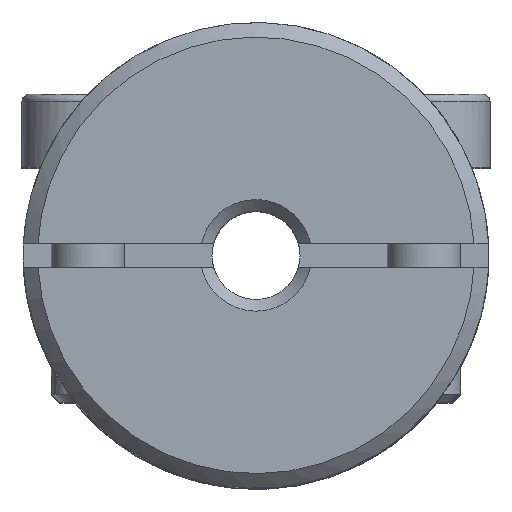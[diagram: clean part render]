
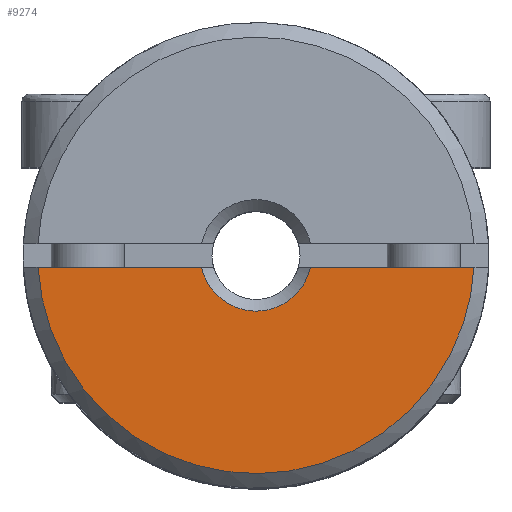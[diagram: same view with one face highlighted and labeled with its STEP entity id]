
A CAD part, top view. The second image highlights one B-rep face of the part: STEP entity #9274.
In plain terms, the highlighted free-form (B-spline) face has degree [3, 3] with [4, 4] control points.
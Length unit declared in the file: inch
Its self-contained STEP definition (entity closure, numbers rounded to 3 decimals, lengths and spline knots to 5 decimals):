
#1452=CARTESIAN_POINT('',(-0.07313,-0.01575,0.5));
#1656=CARTESIAN_POINT('',(-0.29239,-0.01575,0.5));
#1663=CARTESIAN_POINT('',(0.07313,-0.01575,0.5));
#1664=CARTESIAN_POINT('',(0.07148,-0.02341,0.5));
#1665=CARTESIAN_POINT('',(0.067,-0.03517,0.5));
#1666=CARTESIAN_POINT('',(0.05679,-0.04928,0.5));
#1667=CARTESIAN_POINT('',(0.04724,-0.0585,0.5));
#1668=CARTESIAN_POINT('',(0.03622,-0.06589,0.5));
#1669=CARTESIAN_POINT('',(0.02427,-0.07115,0.5));
#1670=CARTESIAN_POINT('',(0.01402,-0.07368,0.5));
#1671=CARTESIAN_POINT('',(0.00592,-0.07465,0.5));
#1672=CARTESIAN_POINT('',(0.,-0.07488,0.5));
#1673=CARTESIAN_POINT('',(-0.00592,-0.07465,0.5));
#1674=CARTESIAN_POINT('',(-0.01402,-0.07368,0.5));
#1675=CARTESIAN_POINT('',(-0.02427,-0.07115,0.5));
#1676=CARTESIAN_POINT('',(-0.03622,-0.06589,0.5));
#1677=CARTESIAN_POINT('',(-0.04724,-0.0585,0.5));
#1678=CARTESIAN_POINT('',(-0.05679,-0.04928,0.5));
#1679=CARTESIAN_POINT('',(-0.067,-0.03517,0.5));
#1680=CARTESIAN_POINT('',(-0.07148,-0.02341,0.5));
#1681=CARTESIAN_POINT('',(-0.07313,-0.01575,0.5));
#1683=DIRECTION('',(-1.,0.,0.));
#1684=VECTOR('',#1683,0.21926);
#1685=CARTESIAN_POINT('',(0.29239,-0.01575,0.5));
#1686=LINE('',#1685,#1684);
#1687=CARTESIAN_POINT('',(-0.29239,-0.01575,0.5));
#1688=CARTESIAN_POINT('',(-0.29149,-0.03252,0.5));
#1689=CARTESIAN_POINT('',(-0.28672,-0.06708,0.5));
#1690=CARTESIAN_POINT('',(-0.26927,-0.11956,0.5));
#1691=CARTESIAN_POINT('',(-0.24102,-0.16964,0.5));
#1692=CARTESIAN_POINT('',(-0.20269,-0.21402,0.5));
#1693=CARTESIAN_POINT('',(-0.1563,-0.24988,0.5));
#1694=CARTESIAN_POINT('',(-0.11338,-0.2711,0.5));
#1695=CARTESIAN_POINT('',(-0.07814,-0.28264,0.5));
#1696=CARTESIAN_POINT('',(-0.05165,-0.28864,0.5));
#1697=CARTESIAN_POINT('',(-0.02982,-0.29152,0.5));
#1698=CARTESIAN_POINT('',(-0.01264,-0.29263,0.5));
#1699=CARTESIAN_POINT('',(0.,-0.29291,0.5));
#1700=CARTESIAN_POINT('',(0.01264,-0.29263,0.5));
#1701=CARTESIAN_POINT('',(0.02982,-0.29152,0.5));
#1702=CARTESIAN_POINT('',(0.05165,-0.28864,0.5));
#1703=CARTESIAN_POINT('',(0.07814,-0.28264,0.5));
#1704=CARTESIAN_POINT('',(0.11338,-0.2711,0.5));
#1705=CARTESIAN_POINT('',(0.1563,-0.24988,0.5));
#1706=CARTESIAN_POINT('',(0.20269,-0.21402,0.5));
#1707=CARTESIAN_POINT('',(0.24102,-0.16964,0.5));
#1708=CARTESIAN_POINT('',(0.26927,-0.11956,0.5));
#1709=CARTESIAN_POINT('',(0.28672,-0.06708,0.5));
#1710=CARTESIAN_POINT('',(0.29149,-0.03252,0.5));
#1711=CARTESIAN_POINT('',(0.29239,-0.01575,0.5));
#1713=DIRECTION('',(-1.,0.,0.));
#1714=VECTOR('',#1713,0.21926);
#1715=CARTESIAN_POINT('',(-0.07313,-0.01575,0.5));
#1716=LINE('',#1715,#1714);
#6063=VERTEX_POINT('',#1452);
#6065=VERTEX_POINT('',#1663);
#6075=VERTEX_POINT('',#1656);
#6178=CARTESIAN_POINT('',(0.29239,-0.01575,0.5));
#6179=VERTEX_POINT('',#6178);
#9251=CARTESIAN_POINT('',(-0.30409,-0.29836,0.5));
#9252=CARTESIAN_POINT('',(-0.30409,-0.20231,0.5));
#9253=CARTESIAN_POINT('',(-0.30409,-0.10626,0.5));
#9254=CARTESIAN_POINT('',(-0.30409,-0.01021,0.5));
#9255=CARTESIAN_POINT('',(-0.10136,-0.29836,0.5));
#9256=CARTESIAN_POINT('',(-0.10136,-0.20231,0.5));
#9257=CARTESIAN_POINT('',(-0.10136,-0.10626,0.5));
#9258=CARTESIAN_POINT('',(-0.10136,-0.01021,0.5));
#9259=CARTESIAN_POINT('',(0.10136,-0.29836,0.5));
#9260=CARTESIAN_POINT('',(0.10136,-0.20231,0.5));
#9261=CARTESIAN_POINT('',(0.10136,-0.10626,0.5));
#9262=CARTESIAN_POINT('',(0.10136,-0.01021,0.5));
#9263=CARTESIAN_POINT('',(0.30409,-0.29836,0.5));
#9264=CARTESIAN_POINT('',(0.30409,-0.20231,0.5));
#9265=CARTESIAN_POINT('',(0.30409,-0.10626,0.5));
#9266=CARTESIAN_POINT('',(0.30409,-0.01021,0.5));
#9267=B_SPLINE_SURFACE_WITH_KNOTS('',3,3,((#9251,#9252,#9253,#9254),(#9255,
#9256,#9257,#9258),(#9259,#9260,#9261,#9262),(#9263,#9264,#9265,#9266)),
.UNSPECIFIED.,.F.,.F.,.F.,(4,4),(4,4),(-0.77238,0.77238),(
-0.75783,-0.02592),.UNSPECIFIED.);
#9268=ORIENTED_EDGE('',*,*,#9104,.F.);
#9269=ORIENTED_EDGE('',*,*,#9203,.F.);
#9270=ORIENTED_EDGE('',*,*,#9239,.F.);
#9271=ORIENTED_EDGE('',*,*,#9057,.F.);
#9272=EDGE_LOOP('',(#9268,#9269,#9270,#9271));
#9273=FACE_OUTER_BOUND('',#9272,.F.);
#1682=B_SPLINE_CURVE_WITH_KNOTS('',3,(#1663,#1664,#1665,#1666,#1667,#1668,#1669,
#1670,#1671,#1672,#1673,#1674,#1675,#1676,#1677,#1678,#1679,#1680,#1681),
.UNSPECIFIED.,.F.,.F.,(4,1,1,1,1,1,1,1,1,1,1,1,1,1,1,1,4),(0.,0.125,
0.1875,0.25,0.3125,0.375,0.4375,0.46875,0.5,0.53125,0.5625,
0.625,0.6875,0.75,0.8125,0.875,1.),.UNSPECIFIED.);
#1712=B_SPLINE_CURVE_WITH_KNOTS('',3,(#1687,#1688,#1689,#1690,#1691,#1692,#1693,
#1694,#1695,#1696,#1697,#1698,#1699,#1700,#1701,#1702,#1703,#1704,#1705,#1706,
#1707,#1708,#1709,#1710,#1711),.UNSPECIFIED.,.F.,.F.,(4,1,1,1,1,1,1,1,1,1,1,1,1,
1,1,1,1,1,1,1,1,1,4),(0.,0.0625,0.125,0.1875,0.25,0.3125,0.375,
0.40625,0.4375,0.46875,0.48438,0.5,0.51563,0.53125,0.5625,
0.59375,0.625,0.6875,0.75,0.8125,0.875,0.9375,1.),
.UNSPECIFIED.);
#9057=EDGE_CURVE('',#6063,#6075,#1716,.T.);
#9104=EDGE_CURVE('',#6065,#6063,#1682,.T.);
#9203=EDGE_CURVE('',#6179,#6065,#1686,.T.);
#9239=EDGE_CURVE('',#6075,#6179,#1712,.T.);
#9274=ADVANCED_FACE('',(#9273),#9267,.T.);
